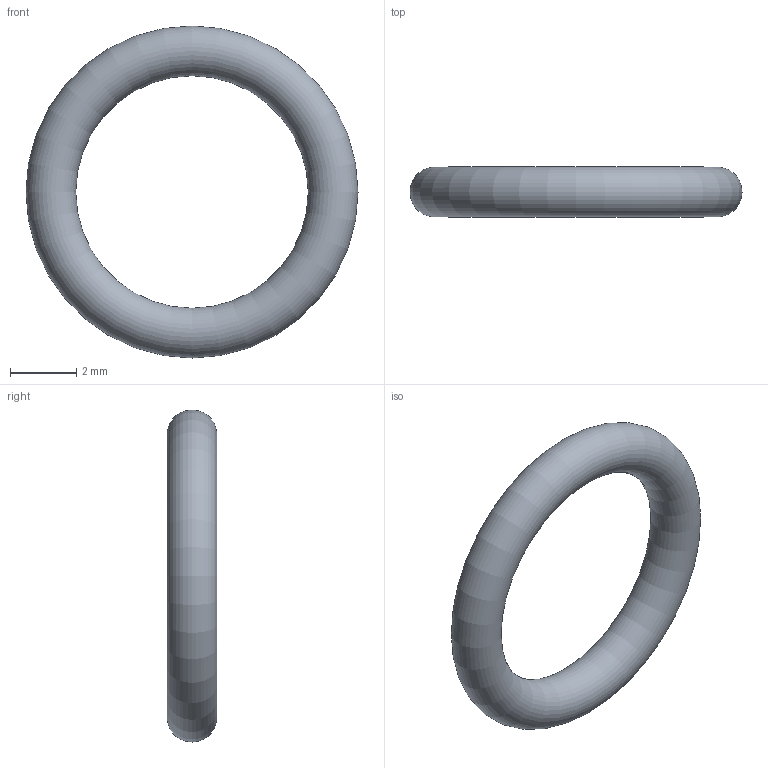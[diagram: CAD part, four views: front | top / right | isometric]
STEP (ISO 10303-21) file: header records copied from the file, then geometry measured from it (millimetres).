
FILE_DESCRIPTION( ( 'STEP AP203' ), '1' );
FILE_NAME( 'C:/Temp/Ganter_Step_05_03_2020/data/3_5/or638/O-Ring OR638-7.00-1.50-70.stp', '2020-03-12T13:44:17', ( 'License CC BY-ND 4.0' ), ( 'CADENAS' ), ' ', 'PARTsolutions', ' ' );
FILE_SCHEMA( ( 'CONFIG_CONTROL_DESIGN' ) );
Length unit declared in the file: millimetre
Products named in the file (1): _O-Ring OR638-7.00-1.50-70
Bounding box: 10 x 1.5 x 10 mm (x, y, z)
Volume: 47.2 mm3; surface area: 125.8 mm2
Topology: 1 solids, 1 shells, 1 faces, 2 edges, 1 vertices
Faces by surface type: torus 1
Entity records: 62 total; most frequent: CC_DESIGN_PERSON_AND_ORGANIZATION_ASSIGNMENT 5, PERSON_AND_ORGANIZATION_ROLE 4, DIRECTION 4, CARTESIAN_POINT 3, DATE_TIME_ROLE 2, CC_DESIGN_DATE_AND_TIME_ASSIGNMENT 2, AXIS2_PLACEMENT_3D 2, DIMENSIONAL_EXPONENTS 2
